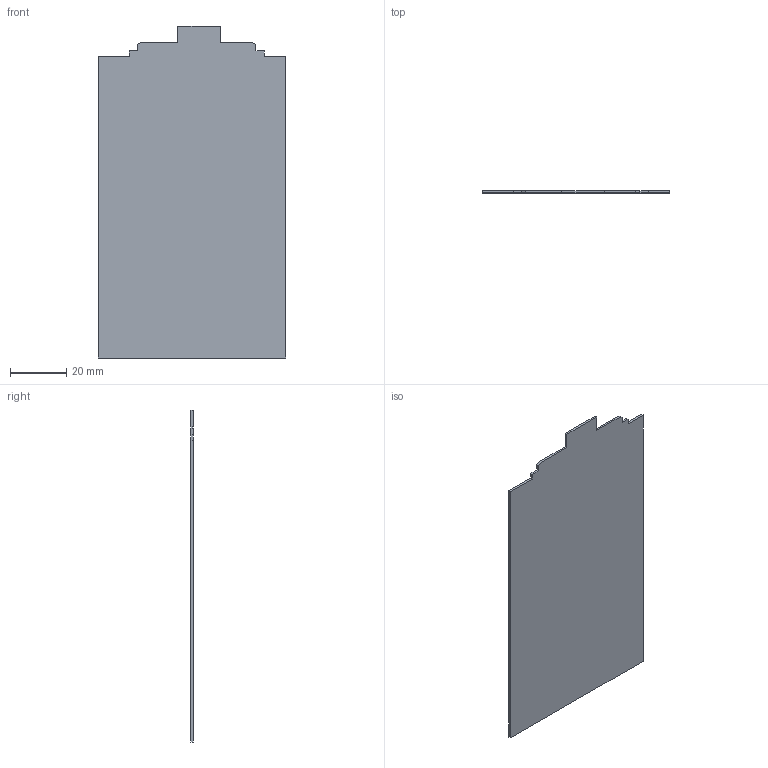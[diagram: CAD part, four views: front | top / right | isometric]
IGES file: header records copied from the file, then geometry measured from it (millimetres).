
Start section:  PTC IGES file: pcb-cf-lower_prt.igs
Global section: file name: pcb-cf-lower_prt.igs; native system: Pro/ENGINEER by Parametric Technology Corporation; preprocessor: 2000030; author: ECaille; organization: Unknown; date: 000803.092117; units: millimetre
Bounding box: 66.68 x 0.8 x 117.8 mm (x, y, z)
Surface area: 15180.1 mm2 (no closed solid volume)
Topology: 0 solids, 0 shells, 20 faces, 184 edges, 260 vertices
Faces by surface type: bspline 20
